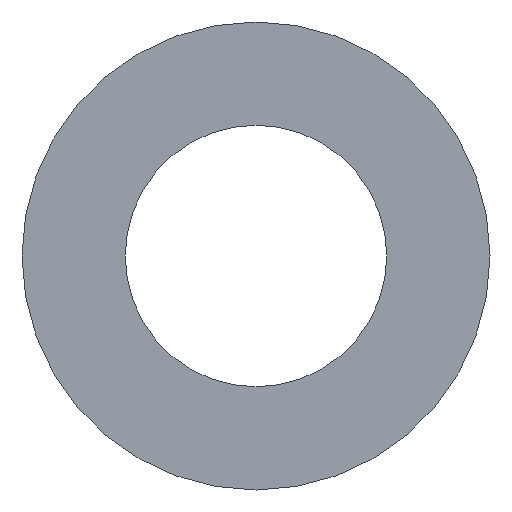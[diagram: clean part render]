
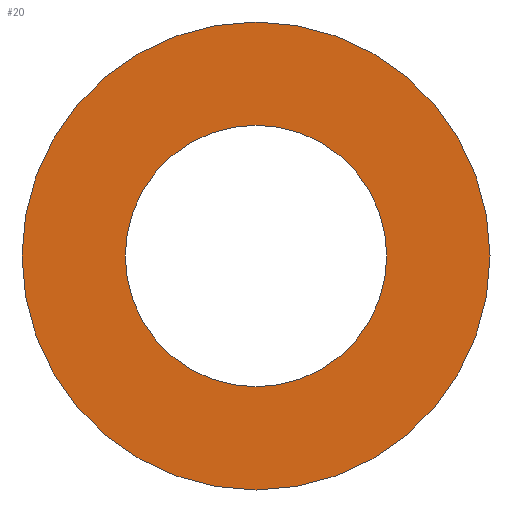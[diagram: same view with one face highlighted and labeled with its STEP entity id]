
A CAD part, front view. The second image highlights one B-rep face of the part: STEP entity #20.
In plain terms, the highlighted planar face has unit normal (0, -1, 0).
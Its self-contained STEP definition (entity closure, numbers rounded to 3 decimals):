
#2 = VERTEX_POINT ( 'NONE', #45 ) ;
#10 = DIRECTION ( 'NONE',  ( 0., 1., 0. ) ) ;
#20 = ADVANCED_FACE ( 'NONE', ( #104, #32 ), #242, .T. ) ;
#27 = ORIENTED_EDGE ( 'NONE', *, *, #139, .F. ) ;
#32 = FACE_OUTER_BOUND ( 'NONE', #68, .T. ) ;
#37 = VERTEX_POINT ( 'NONE', #163 ) ;
#45 = CARTESIAN_POINT ( 'NONE',  ( 0., -3., -9.5 ) ) ;
#55 = DIRECTION ( 'NONE',  ( 0., 0., 1. ) ) ;
#57 = DIRECTION ( 'NONE',  ( 0., 1., 0. ) ) ;
#58 = EDGE_CURVE ( 'NONE', #2, #37, #167, .T. ) ;
#67 = AXIS2_PLACEMENT_3D ( 'NONE', #109, #218, #170 ) ;
#68 = EDGE_LOOP ( 'NONE', ( #177, #27 ) ) ;
#72 = CARTESIAN_POINT ( 'NONE',  ( 0., -3., -17. ) ) ;
#83 = EDGE_CURVE ( 'NONE', #37, #2, #155, .T. ) ;
#87 = DIRECTION ( 'NONE',  ( 0., 0., -1. ) ) ;
#101 = AXIS2_PLACEMENT_3D ( 'NONE', #171, #57, #55 ) ;
#104 = FACE_BOUND ( 'NONE', #226, .T. ) ;
#105 = DIRECTION ( 'NONE',  ( 0., 1., 0. ) ) ;
#108 = CARTESIAN_POINT ( 'NONE',  ( 0., -3., 0. ) ) ;
#109 = CARTESIAN_POINT ( 'NONE',  ( 0., -3., 0. ) ) ;
#119 = AXIS2_PLACEMENT_3D ( 'NONE', #108, #105, #124 ) ;
#121 = DIRECTION ( 'NONE',  ( 0., -1., 0. ) ) ;
#123 = VERTEX_POINT ( 'NONE', #72 ) ;
#124 = DIRECTION ( 'NONE',  ( 0., 0., 1. ) ) ;
#135 = AXIS2_PLACEMENT_3D ( 'NONE', #183, #121, #87 ) ;
#139 = EDGE_CURVE ( 'NONE', #123, #144, #180, .T. ) ;
#142 = AXIS2_PLACEMENT_3D ( 'NONE', #145, #10, #210 ) ;
#144 = VERTEX_POINT ( 'NONE', #209 ) ;
#145 = CARTESIAN_POINT ( 'NONE',  ( 0., -3., 0. ) ) ;
#152 = ORIENTED_EDGE ( 'NONE', *, *, #83, .T. ) ;
#155 = CIRCLE ( 'NONE', #142, 9.5 ) ;
#163 = CARTESIAN_POINT ( 'NONE',  ( 0., -3., 9.5 ) ) ;
#167 = CIRCLE ( 'NONE', #119, 9.5 ) ;
#170 = DIRECTION ( 'NONE',  ( 0., 0., 1. ) ) ;
#171 = CARTESIAN_POINT ( 'NONE',  ( 0., -3., 0. ) ) ;
#177 = ORIENTED_EDGE ( 'NONE', *, *, #233, .F. ) ;
#180 = CIRCLE ( 'NONE', #67, 17. ) ;
#183 = CARTESIAN_POINT ( 'NONE',  ( 0., -3., 17. ) ) ;
#209 = CARTESIAN_POINT ( 'NONE',  ( 0., -3., 17. ) ) ;
#210 = DIRECTION ( 'NONE',  ( 0., 0., 1. ) ) ;
#218 = DIRECTION ( 'NONE',  ( 0., 1., 0. ) ) ;
#226 = EDGE_LOOP ( 'NONE', ( #152, #239 ) ) ;
#233 = EDGE_CURVE ( 'NONE', #144, #123, #248, .T. ) ;
#239 = ORIENTED_EDGE ( 'NONE', *, *, #58, .T. ) ;
#242 = PLANE ( 'NONE',  #135 ) ;
#248 = CIRCLE ( 'NONE', #101, 17. ) ;
